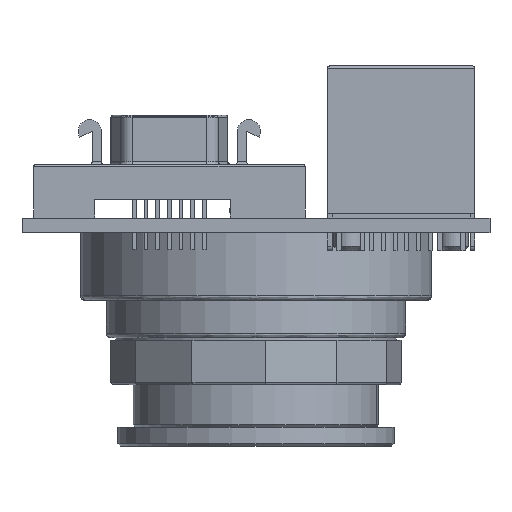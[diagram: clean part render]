
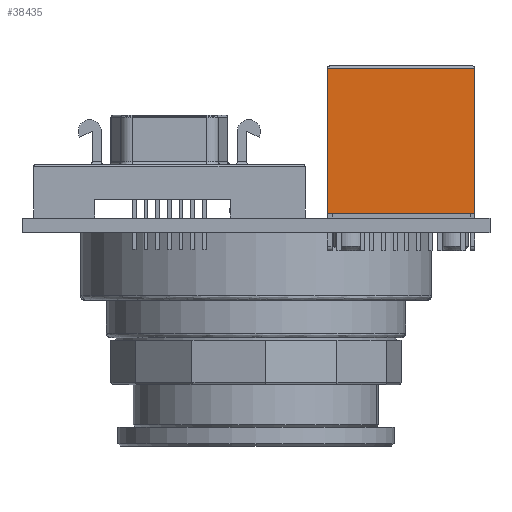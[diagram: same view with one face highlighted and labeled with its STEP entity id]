
A CAD part, front view. The second image highlights one B-rep face of the part: STEP entity #38435.
In plain terms, the highlighted planar face has unit normal (0, -1, 0).
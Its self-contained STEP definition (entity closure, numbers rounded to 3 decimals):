
#193 = ORIENTED_EDGE ( 'NONE', *, *, #6416, .T. ) ;
#2240 = LINE ( 'NONE', #2519, #48710 ) ;
#2519 = CARTESIAN_POINT ( 'NONE',  ( -8.001, -6.604, 0. ) ) ;
#5296 = VERTEX_POINT ( 'NONE', #36559 ) ;
#6416 = EDGE_CURVE ( 'NONE', #38771, #17470, #41447, .T. ) ;
#6573 = FACE_OUTER_BOUND ( 'NONE', #35617, .T. ) ;
#9467 = VERTEX_POINT ( 'NONE', #34663 ) ;
#13653 = CARTESIAN_POINT ( 'NONE',  ( -8.001, -6.604, 0. ) ) ;
#17106 = EDGE_CURVE ( 'NONE', #17470, #9467, #2240, .T. ) ;
#17350 = DIRECTION ( 'NONE',  ( 0., 0., -1. ) ) ;
#17470 = VERTEX_POINT ( 'NONE', #13653 ) ;
#17788 = DIRECTION ( 'NONE',  ( 0., 1., 0. ) ) ;
#24336 = VECTOR ( 'NONE', #17350, 1000. ) ;
#26184 = CARTESIAN_POINT ( 'NONE',  ( 8.001, -6.604, 12.954 ) ) ;
#29453 = VECTOR ( 'NONE', #47146, 1000. ) ;
#30489 = LINE ( 'NONE', #41009, #42503 ) ;
#33550 = CARTESIAN_POINT ( 'NONE',  ( -8.001, -6.604, 12.954 ) ) ;
#34663 = CARTESIAN_POINT ( 'NONE',  ( 8.001, -6.604, 0. ) ) ;
#35412 = EDGE_CURVE ( 'NONE', #5296, #9467, #36291, .T. ) ;
#35617 = EDGE_LOOP ( 'NONE', ( #51882, #193, #51442, #42391 ) ) ;
#36291 = LINE ( 'NONE', #26184, #24336 ) ;
#36559 = CARTESIAN_POINT ( 'NONE',  ( 8.001, -6.604, 15.748 ) ) ;
#38435 = ADVANCED_FACE ( 'NONE', ( #6573 ), #53585, .F. ) ;
#38771 = VERTEX_POINT ( 'NONE', #52151 ) ;
#41009 = CARTESIAN_POINT ( 'NONE',  ( -8.001, -6.604, 15.748 ) ) ;
#41447 = LINE ( 'NONE', #33550, #29453 ) ;
#42391 = ORIENTED_EDGE ( 'NONE', *, *, #35412, .F. ) ;
#42503 = VECTOR ( 'NONE', #50088, 1000. ) ;
#43056 = DIRECTION ( 'NONE',  ( 1., 0., 0. ) ) ;
#44776 = CARTESIAN_POINT ( 'NONE',  ( -8.001, -6.604, 12.954 ) ) ;
#47146 = DIRECTION ( 'NONE',  ( 0., 0., -1. ) ) ;
#48710 = VECTOR ( 'NONE', #43056, 1000. ) ;
#49269 = DIRECTION ( 'NONE',  ( -1., 0., 0. ) ) ;
#50088 = DIRECTION ( 'NONE',  ( 1., 0., 0. ) ) ;
#51442 = ORIENTED_EDGE ( 'NONE', *, *, #17106, .T. ) ;
#51504 = AXIS2_PLACEMENT_3D ( 'NONE', #44776, #17788, #49269 ) ;
#51882 = ORIENTED_EDGE ( 'NONE', *, *, #55592, .F. ) ;
#52151 = CARTESIAN_POINT ( 'NONE',  ( -8.001, -6.604, 15.748 ) ) ;
#53585 = PLANE ( 'NONE',  #51504 ) ;
#55592 = EDGE_CURVE ( 'NONE', #38771, #5296, #30489, .T. ) ;
